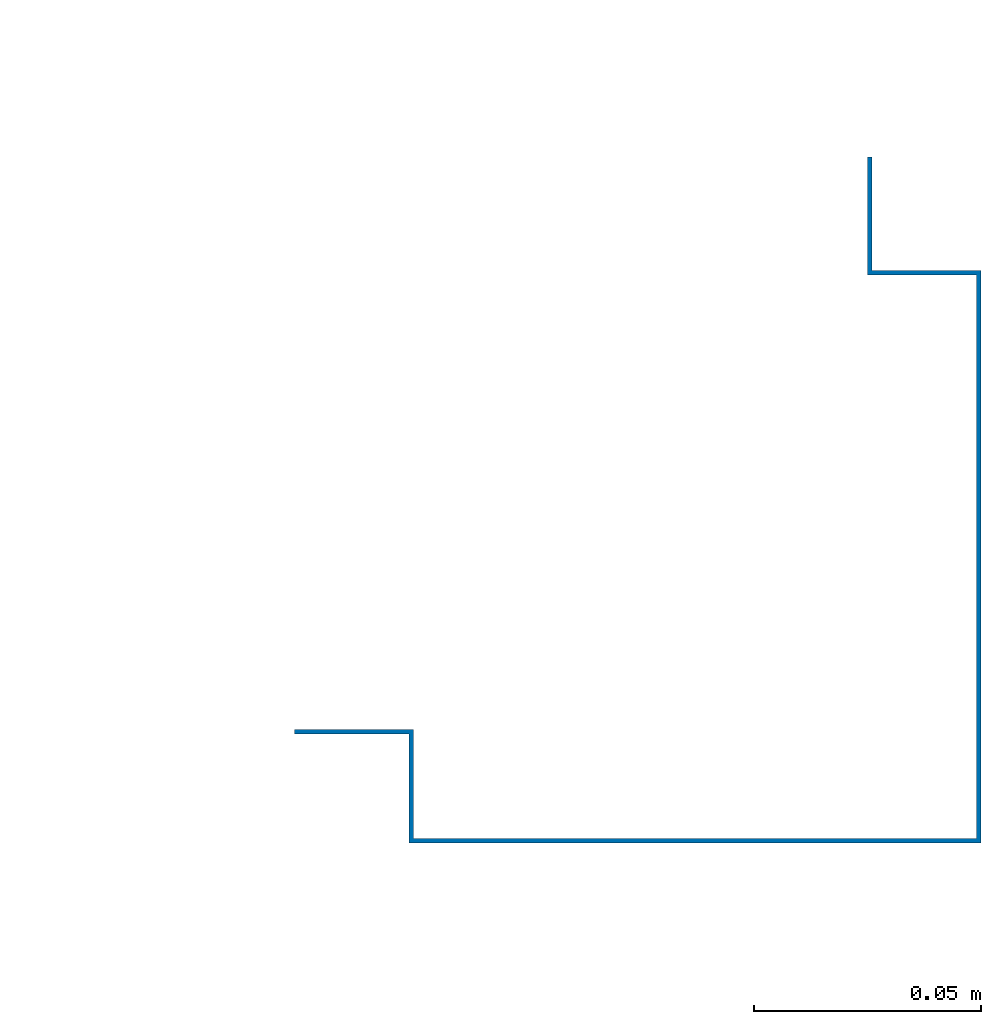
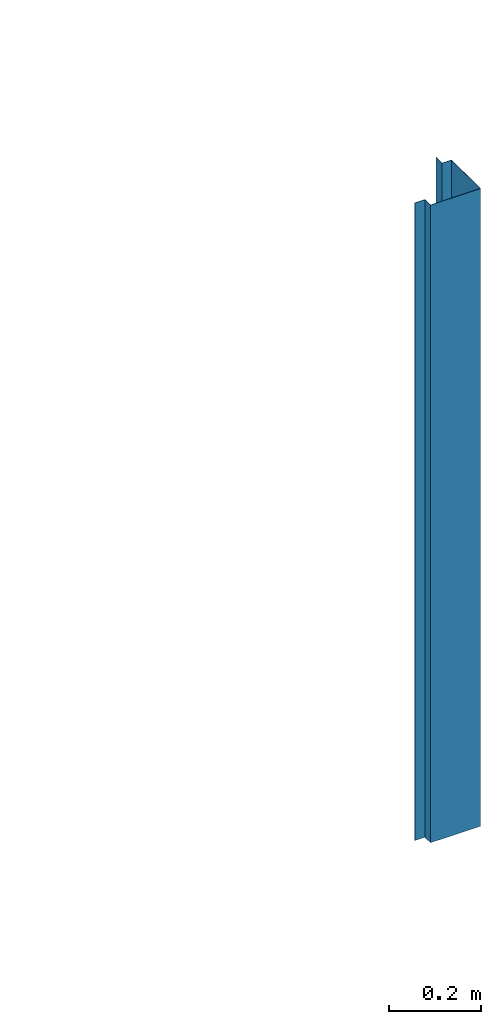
# One storey, part 28 of 321: 1 column.
"""IFC2X3 building model written with IfcOpenShell, lengths in millimetres."""

from ifc_helpers import new_model, entity, si_unit, converted_unit, derived_unit, money_unit, direction, frame, origin_with_axes, place, context, subcontext, project, spatial, faceted_brep, material, type_object, element, save


model = new_model("IFC2X3")

# Units and contexts
model_context = context("Model", 3, precision=0.01, world=origin_with_axes(), true_north=direction((0.0, 1.0)))
plan_context = context("Plan", 3, precision=0.01, world=origin_with_axes(), true_north=direction((0.0, 1.0)))
body_context = subcontext(model_context, "Body", "Model", "MODEL_VIEW")
ifc_project = project(units=[si_unit("LENGTHUNIT", "METRE", prefix="MILLI"), si_unit("AREAUNIT", "SQUARE_METRE"), si_unit("VOLUMEUNIT", "CUBIC_METRE"), converted_unit("PLANEANGLEUNIT", "DEGREE", entity("IfcPlaneAngleMeasure", 0.0174532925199), si_unit("PLANEANGLEUNIT", "RADIAN"), dimensions=[0, 0, 0, 0, 0, 0, 0]), money_unit("EUR"), converted_unit("TIMEUNIT", "Year", entity("IfcTimeMeasure", 31556926.0), si_unit("TIMEUNIT", "SECOND"), dimensions=[0, 0, 1, 0, 0, 0, 0]), si_unit("MASSUNIT", "GRAM", prefix="KILO"), si_unit("THERMODYNAMICTEMPERATUREUNIT", "DEGREE_CELSIUS"), si_unit("LUMINOUSINTENSITYUNIT", "LUMEN"), si_unit("ENERGYUNIT", "JOULE", prefix="MEGA"), derived_unit("THERMALCONDUCTANCEUNIT", [(si_unit("POWERUNIT", "WATT"), 1), (si_unit("LENGTHUNIT", "METRE"), -1), (si_unit("THERMODYNAMICTEMPERATUREUNIT", "KELVIN"), -1)]), derived_unit("SPECIFICHEATCAPACITYUNIT", [(si_unit("ENERGYUNIT", "JOULE"), 1), (si_unit("MASSUNIT", "GRAM", prefix="KILO"), -1), (si_unit("THERMODYNAMICTEMPERATUREUNIT", "KELVIN"), -1)]), derived_unit("MASSDENSITYUNIT", [(si_unit("MASSUNIT", "GRAM", prefix="KILO"), 1), (si_unit("VOLUMEUNIT", "CUBIC_METRE"), -1)])], contexts=[model_context, plan_context])

# Site, building, storey
site_placement = place(None, origin_with_axes())
site = spatial("IfcSite", under=ifc_project, at=site_placement, Name="Fortuinstraat Woensdrecht", CompositionType="ELEMENT")
building_placement = place(site_placement, origin_with_axes())
building = spatial("IfcBuilding", under=site, at=building_placement, Name="IKC Fortuna", CompositionType="ELEMENT")
storey_placement = place(building_placement, frame((0.0, 0.0, 4000.0), z_axis=(0.0, 0.0, 1.0), x_axis=(1.0, 0.0, 0.0)))
storey = spatial("IfcBuildingStorey", under=building, at=storey_placement, Name="01 eerste verdieping", CompositionType="ELEMENT", Elevation=4000.0)

# Column
ifc_material = material(Name="Metaal - Aluminium")
column_type = type_object("IfcColumnType", Name="41 Zetwerk SW hoek 151 x 151", PredefinedType="COLUMN")
column_placement = place(storey_placement, frame((59533.4270571, 20896.2966283, 1289.99999237), z_axis=(0.0, 0.0, 1.0), x_axis=(0.0, 1.0, 0.0)))
element("IfcColumn", 1, at=column_placement, inside=storey, type_object=column_type, material=ifc_material, Name="28_Kolom_omtimmering kolom", ObjectType="COLUMN", context=body_context, shape_type="Brep", body=[
    faceted_brep([(100.0, -24.0, 1690.00000566), (100.0, 0.0, 1690.00000566), (100.0, 0.0, 0.0), (100.0, -24.0, 0.0), (126.0, -0.999999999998, 1690.00000566), (126.0, 0.0, 1690.00000566), (-24.0, -24.0, 1690.00000566), (-24.0, 100.0, 1690.00000566), (0.0, 100.0, 1690.00000566), (-1.20792265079e-10, 126.150271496, 1690.00000566), (-1.0, 126.150271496, 1690.00000566), (-1.0, 101.0, 1690.00000566), (-25.0, 101.0, 1690.00000566), (-25.0, -25.0, 1690.00000566), (101.0, -25.0, 1690.00000566), (101.0, -0.999999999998, 1690.00000566), (126.0, 0.0, 0.0), (-24.0, -24.0, 0.0), (126.0, -0.999999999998, 0.0), (101.0, -0.999999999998, 0.0), (101.0, -25.0, 0.0), (-25.0, -25.0, 0.0), (-25.0, 101.0, 0.0), (-1.0, 101.0, 0.0), (-1.0, 126.150271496, 0.0), (-1.20792265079e-10, 126.150271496, 0.0), (0.0, 100.0, 0.0), (-24.0, 100.0, 0.0)], [[[0, 1, 2, 3]], [[4, 5, 1, 0, 6, 7, 8, 9, 10, 11, 12, 13, 14, 15]], [[1, 5, 16, 2]], [[17, 3, 2, 16, 18, 19, 20, 21, 22, 23, 24, 25, 26, 27]], [[6, 0, 3, 17]], [[5, 4, 18, 16]], [[7, 6, 17, 27]], [[8, 7, 27, 26]], [[9, 8, 26, 25]], [[10, 9, 25, 24]], [[11, 10, 24, 23]], [[12, 11, 23, 22]], [[13, 12, 22, 21]], [[14, 13, 21, 20]], [[15, 14, 20, 19]], [[4, 15, 19, 18]]]),
])

save(model, "model.ifc")
